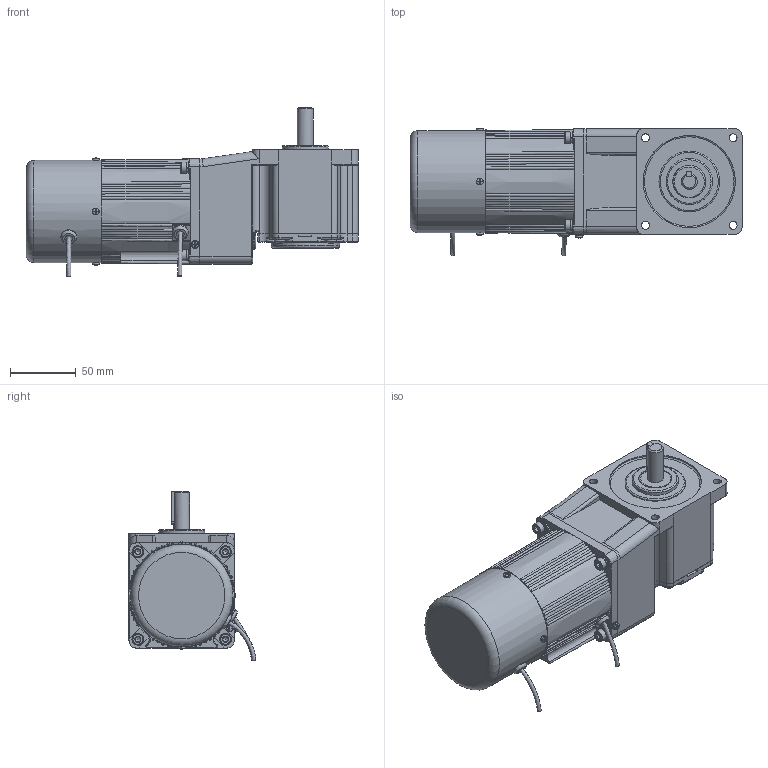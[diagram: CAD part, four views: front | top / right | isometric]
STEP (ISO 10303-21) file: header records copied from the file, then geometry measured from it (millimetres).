
FILE_DESCRIPTION(/* description */ (''),/* implementation_level */ '2;1');
FILE_NAME(/* name */ '80+中实直角-刹车-25-40W 新版.stp',/* time_stamp */ '2025-11-26T08:50:38+08:00',/* author */ (''),/* organization */ (''),/* preprocessor_version */ 'ST-DEVELOPER v18.102',/* originating_system */ 'SIEMENS PLM Software NX 2027',/* authorisation */ '');
FILE_SCHEMA (('AUTOMOTIVE_DESIGN { 1 0 10303 214 3 1 1 1 }'));
Length unit declared in the file: millimetre
Products named in the file (1): 80+中实直角-刹车-25-40W 新版_
objects
Bounding box: 252 x 96.94 x 128.38 mm (x, y, z)
Volume: 1321493.2 mm3; surface area: 128743.5 mm2
Topology: 20 solids, 20 shells, 1036 faces, 2492 edges, 1557 vertices
Faces by surface type: plane 424, cylinder 243, bspline 171, cone 90, torus 88, sphere 20
Full cylindrical faces by diameter (mm): 2.6 x1, 3 x1, 3.2 x1, 4.2 x4, 4.4 x1, 4.826 x4, 5 x9, 5.1 x5, 5.3 x4, 6 x13, 8 x6, 8.2 x1, 8.5 x4, 9 x4, 10.5 x1, 12 x1, 19 x1, 25 x1, 26 x1, 35 x1, 46 x1, 52 x1, 56 x1, 67 x1, 70 x1, 75 x1, 76 x1, 77.5 x1
Entity records: 37049 total; most frequent: CARTESIAN_POINT 15564, ORIENTED_EDGE 4562, DIRECTION 3791, EDGE_CURVE 2281, AXIS2_PLACEMENT_3D 1540, VERTEX_POINT 1492, EDGE_LOOP 1259, ADVANCED_FACE 1033
